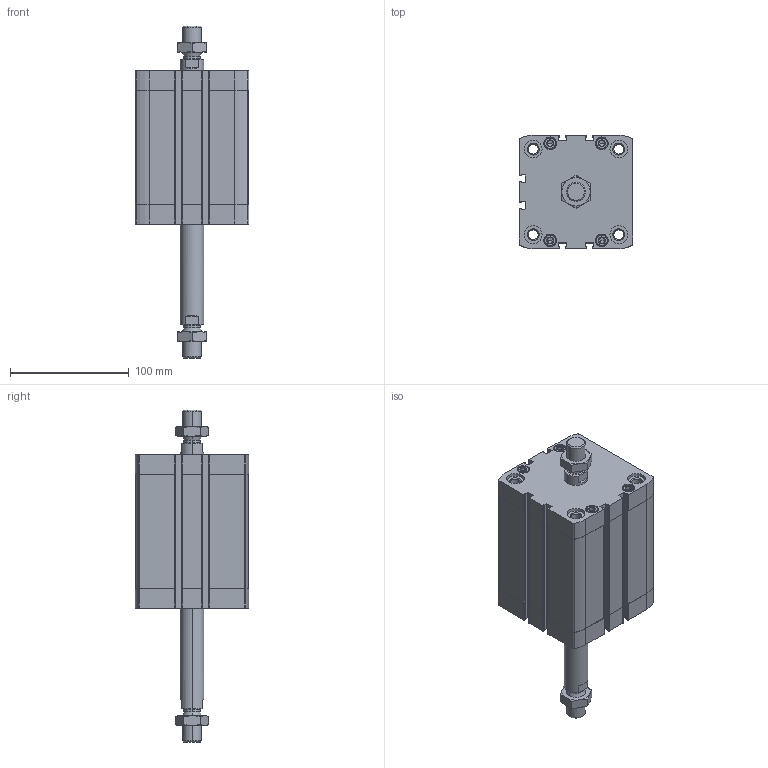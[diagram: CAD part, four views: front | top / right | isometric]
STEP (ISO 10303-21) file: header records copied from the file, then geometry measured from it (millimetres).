
FILE_DESCRIPTION (( 'STEP AP203' ), '1' );
FILE_NAME ('CCN80-75-P.STEP', '2020-06-22T19:07:37', ( '' ), ( '' ), 'SwSTEP 2.0', 'SolidWorks 2019', '' );
FILE_SCHEMA (( 'CONFIG_CONTROL_DESIGN' ));
Length unit declared in the file: millimetre
Products named in the file (1): CCN80-75-P
Bounding box: 95.5 x 95.5 x 279.2 mm (x, y, z)
Volume: 792443.4 mm3; surface area: 161652.1 mm2
Topology: 4 solids, 4 shells, 544 faces, 1352 edges, 848 vertices
Faces by surface type: plane 248, cylinder 196, cone 92, torus 8
Entity records: 17807 total; most frequent: CARTESIAN_POINT 4577, DIRECTION 2866, ORIENTED_EDGE 2672, EDGE_CURVE 1336, AXIS2_PLACEMENT_3D 1077, VERTEX_POINT 848, LINE 712, VECTOR 712
